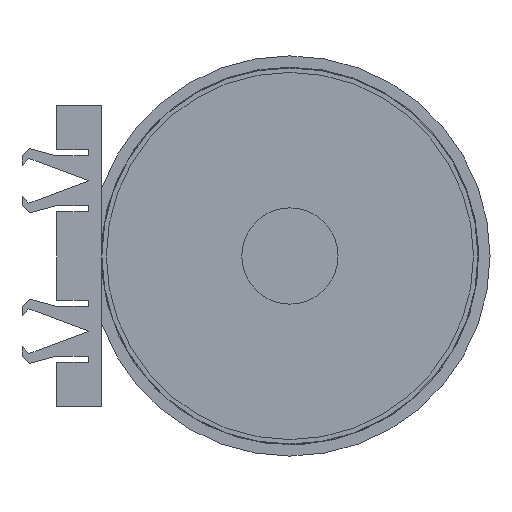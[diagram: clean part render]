
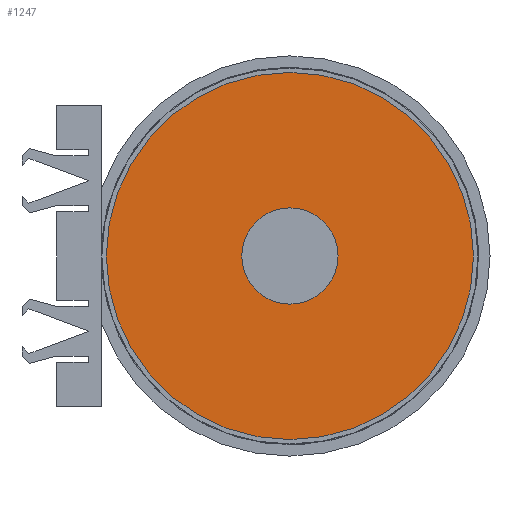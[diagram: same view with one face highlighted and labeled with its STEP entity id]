
A CAD part, left-side view. The second image highlights one B-rep face of the part: STEP entity #1247.
In plain terms, the highlighted planar face has unit normal (-1, 0, 0) as drawn and (0, 0, -1) by its records, which use the part's own axes.
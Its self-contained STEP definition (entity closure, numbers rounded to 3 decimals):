
#28=FACE_BOUND('',#179,.T.);
#46=PLANE('',#1354);
#106=FACE_OUTER_BOUND('',#178,.T.);
#178=EDGE_LOOP('',(#919,#920));
#179=EDGE_LOOP('',(#921,#922));
#526=CIRCLE('',#1327,3.2);
#527=CIRCLE('',#1328,3.2);
#542=CIRCLE('',#1352,12.2);
#543=CIRCLE('',#1353,12.2);
#566=VERTEX_POINT('',#1804);
#567=VERTEX_POINT('',#1806);
#582=VERTEX_POINT('',#1849);
#583=VERTEX_POINT('',#1851);
#691=EDGE_CURVE('',#567,#566,#526,.T.);
#692=EDGE_CURVE('',#566,#567,#527,.T.);
#711=EDGE_CURVE('',#583,#582,#542,.T.);
#712=EDGE_CURVE('',#582,#583,#543,.T.);
#919=ORIENTED_EDGE('',*,*,#711,.T.);
#920=ORIENTED_EDGE('',*,*,#712,.T.);
#921=ORIENTED_EDGE('',*,*,#691,.T.);
#922=ORIENTED_EDGE('',*,*,#692,.T.);
#1247=ADVANCED_FACE('',(#106,#28),#46,.T.);
#1327=AXIS2_PLACEMENT_3D('',#1807,#1453,#1454);
#1328=AXIS2_PLACEMENT_3D('',#1808,#1455,#1456);
#1352=AXIS2_PLACEMENT_3D('',#1852,#1507,#1508);
#1353=AXIS2_PLACEMENT_3D('',#1853,#1509,#1510);
#1354=AXIS2_PLACEMENT_3D('',#1854,#1511,#1512);
#1453=DIRECTION('center_axis',(0.,0.,1.));
#1454=DIRECTION('ref_axis',(0.,1.,0.));
#1455=DIRECTION('center_axis',(0.,0.,1.));
#1456=DIRECTION('ref_axis',(0.,1.,0.));
#1507=DIRECTION('center_axis',(0.,0.,-1.));
#1508=DIRECTION('ref_axis',(1.,0.,0.));
#1509=DIRECTION('center_axis',(0.,0.,-1.));
#1510=DIRECTION('ref_axis',(1.,0.,0.));
#1511=DIRECTION('center_axis',(0.,0.,-1.));
#1512=DIRECTION('ref_axis',(-1.,0.,0.));
#1804=CARTESIAN_POINT('',(0.,-3.2,0.));
#1806=CARTESIAN_POINT('',(0.,3.2,0.));
#1807=CARTESIAN_POINT('Origin',(0.,0.,0.));
#1808=CARTESIAN_POINT('Origin',(0.,0.,0.));
#1849=CARTESIAN_POINT('',(-12.2,0.,0.));
#1851=CARTESIAN_POINT('',(12.2,0.,0.));
#1852=CARTESIAN_POINT('Origin',(0.,0.,0.));
#1853=CARTESIAN_POINT('Origin',(0.,0.,0.));
#1854=CARTESIAN_POINT('Origin',(0.,0.,0.));
